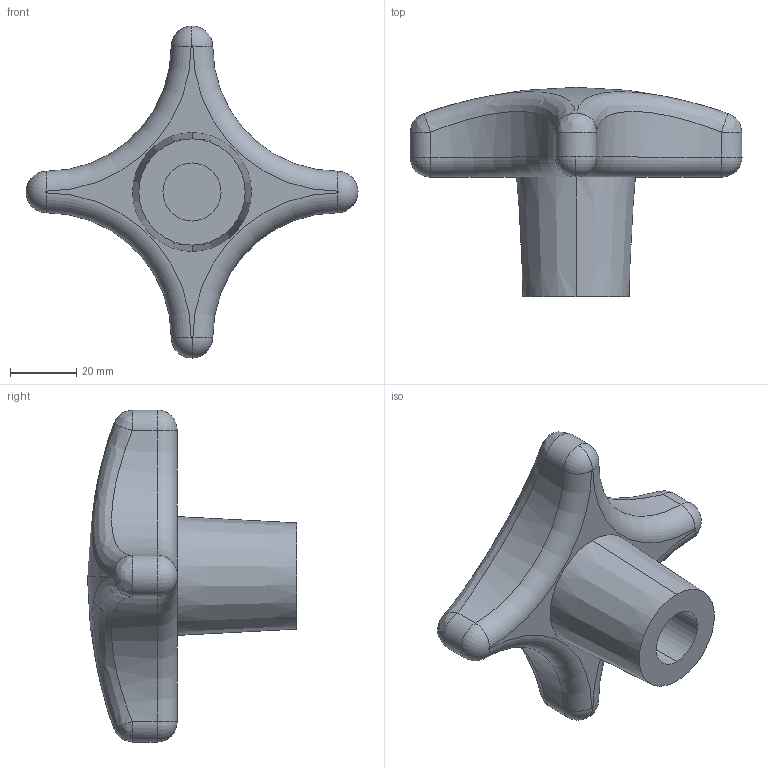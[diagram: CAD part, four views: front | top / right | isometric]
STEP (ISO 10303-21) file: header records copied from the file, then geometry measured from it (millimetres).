
FILE_DESCRIPTION (( 'STEP AP203' ), '1' );
FILE_NAME ('7000.W490.step', '2010-01-29T17:39:26', ( 'Wixroyd' ), ( 'Wixroyd' ), 'SwSTEP 2.0', 'SolidWorks 2009', '' );
FILE_SCHEMA (( 'CONFIG_CONTROL_DESIGN' ));
Length unit declared in the file: millimetre
Products named in the file (1): 7000.W490
Bounding box: 100 x 63 x 100 mm (x, y, z)
Volume: 103160.1 mm3; surface area: 18314.3 mm2
Topology: 1 solids, 1 shells, 36 faces, 80 edges, 48 vertices
Faces by surface type: cylinder 11, torus 10, bspline 8, plane 3, cone 2, sphere 2
Entity records: 7203 total; most frequent: CARTESIAN_POINT 6349, DIRECTION 167, ORIENTED_EDGE 160, EDGE_CURVE 80, AXIS2_PLACEMENT_3D 77, VERTEX_POINT 48, CIRCLE 48, EDGE_LOOP 38
